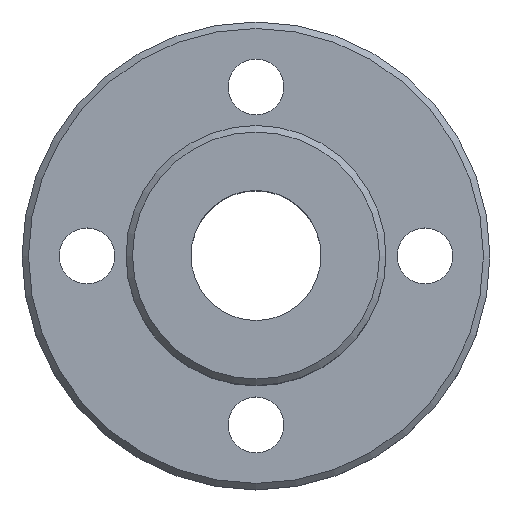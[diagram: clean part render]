
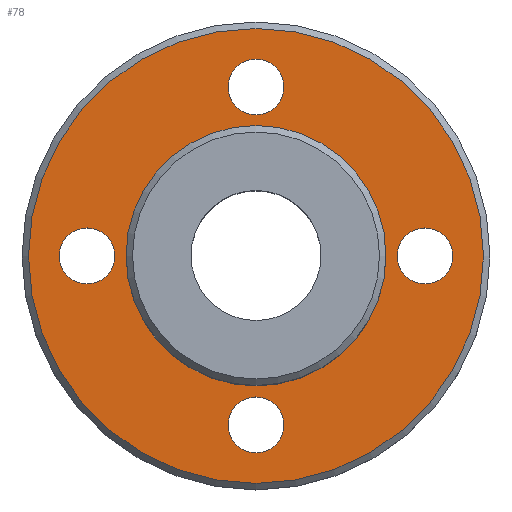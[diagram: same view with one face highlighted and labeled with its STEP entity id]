
A CAD part, top view. The second image highlights one B-rep face of the part: STEP entity #78.
In plain terms, the highlighted planar face has unit normal (0, 0, 1).
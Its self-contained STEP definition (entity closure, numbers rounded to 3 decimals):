
#78=ADVANCED_FACE('',(#102,#103,#104,#105,#106,#107),#108,.T.);
#102=FACE_BOUND('',#149,.T.);
#103=FACE_BOUND('',#150,.T.);
#104=FACE_OUTER_BOUND('',#151,.T.);
#105=FACE_BOUND('',#152,.T.);
#106=FACE_BOUND('',#153,.T.);
#107=FACE_BOUND('',#154,.T.);
#108=PLANE('',#155);
#149=EDGE_LOOP('',(#202));
#150=EDGE_LOOP('',(#203));
#151=EDGE_LOOP('',(#204));
#152=EDGE_LOOP('',(#205));
#153=EDGE_LOOP('',(#206));
#154=EDGE_LOOP('',(#207));
#155=AXIS2_PLACEMENT_3D('',#208,#209,#210);
#202=ORIENTED_EDGE('',*,*,#258,.T.);
#203=ORIENTED_EDGE('',*,*,#264,.T.);
#204=ORIENTED_EDGE('',*,*,#265,.T.);
#205=ORIENTED_EDGE('',*,*,#266,.T.);
#206=ORIENTED_EDGE('',*,*,#267,.T.);
#207=ORIENTED_EDGE('',*,*,#256,.T.);
#208=CARTESIAN_POINT('',(0.0,0.0,5.0));
#209=DIRECTION('',(0.0,0.0,1.0));
#210=DIRECTION('',(1.0,0.0,0.0));
#256=EDGE_CURVE('',#273,#273,#274,.F.);
#258=EDGE_CURVE('',#277,#277,#278,.F.);
#264=EDGE_CURVE('',#289,#289,#290,.F.);
#265=EDGE_CURVE('',#291,#291,#292,.T.);
#266=EDGE_CURVE('',#293,#293,#294,.F.);
#267=EDGE_CURVE('',#295,#295,#296,.F.);
#273=VERTEX_POINT('',#307);
#274=CIRCLE('',#308,2.15);
#277=VERTEX_POINT('',#311);
#278=CIRCLE('',#312,2.15);
#289=VERTEX_POINT('',#323);
#290=CIRCLE('',#324,2.15);
#291=VERTEX_POINT('',#325);
#292=CIRCLE('',#326,17.5);
#293=VERTEX_POINT('',#327);
#294=CIRCLE('',#328,10.0);
#295=VERTEX_POINT('',#329);
#296=CIRCLE('',#330,2.15);
#307=CARTESIAN_POINT('',(2.15,-13.0,5.0));
#308=AXIS2_PLACEMENT_3D('',#341,#342,#343);
#311=CARTESIAN_POINT('',(-10.85,0.,5.0));
#312=AXIS2_PLACEMENT_3D('',#347,#348,#349);
#323=CARTESIAN_POINT('',(15.15,0.,5.0));
#324=AXIS2_PLACEMENT_3D('',#365,#366,#367);
#325=CARTESIAN_POINT('',(17.5,0.0,5.0));
#326=AXIS2_PLACEMENT_3D('',#368,#369,#370);
#327=CARTESIAN_POINT('',(10.0,0.,5.0));
#328=AXIS2_PLACEMENT_3D('',#371,#372,#373);
#329=CARTESIAN_POINT('',(2.15,13.0,5.0));
#330=AXIS2_PLACEMENT_3D('',#374,#375,#376);
#341=CARTESIAN_POINT('',(0.,-13.0,5.0));
#342=DIRECTION('',(0.0,0.0,1.0));
#343=DIRECTION('',(1.0,0.0,0.0));
#347=CARTESIAN_POINT('',(-13.0,0.,5.0));
#348=DIRECTION('',(0.0,0.0,1.0));
#349=DIRECTION('',(1.0,0.0,0.0));
#365=CARTESIAN_POINT('',(13.0,0.0,5.0));
#366=DIRECTION('',(0.0,0.0,1.0));
#367=DIRECTION('',(1.0,0.0,0.0));
#368=CARTESIAN_POINT('',(0.0,0.0,5.0));
#369=DIRECTION('',(0.0,0.0,1.0));
#370=DIRECTION('',(1.0,0.0,0.0));
#371=CARTESIAN_POINT('',(0.0,0.0,5.0));
#372=DIRECTION('',(0.0,0.0,1.0));
#373=DIRECTION('',(1.0,0.0,0.0));
#374=CARTESIAN_POINT('',(0.,13.0,5.0));
#375=DIRECTION('',(0.0,0.0,1.0));
#376=DIRECTION('',(1.0,0.0,0.0));
